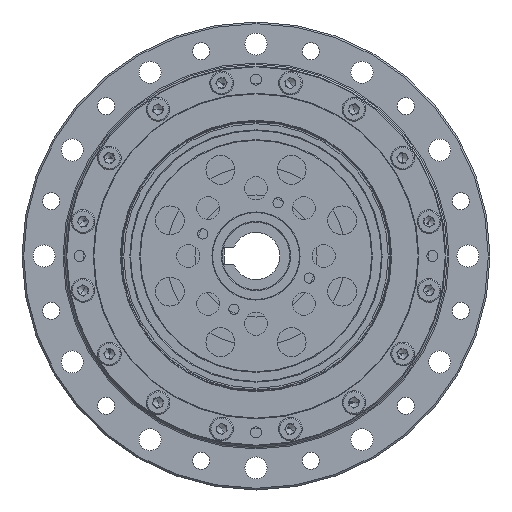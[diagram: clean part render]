
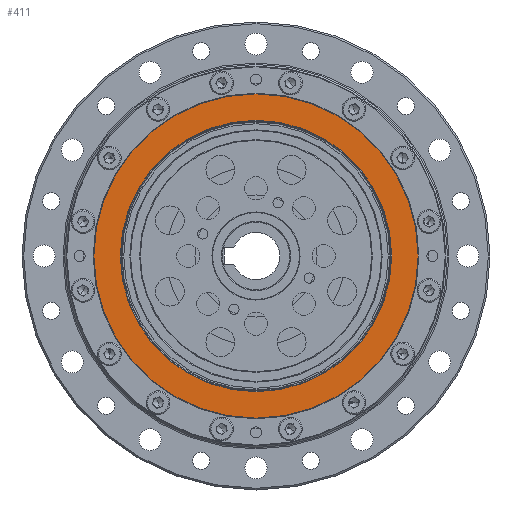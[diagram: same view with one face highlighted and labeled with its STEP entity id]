
A CAD part, left-side view. The second image highlights one B-rep face of the part: STEP entity #411.
In plain terms, the highlighted planar face has unit normal (-1, 0, 0).
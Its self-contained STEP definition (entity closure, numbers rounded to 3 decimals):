
#134 = CIRCLE ( 'NONE', #6248, 40. ) ;
#220 = CARTESIAN_POINT ( 'NONE',  ( -36.034, 3.993, 138. ) ) ;
#243 = FACE_BOUND ( 'NONE', #15381, .T. ) ;
#411 = ADVANCED_FACE ( 'NONE', ( #15183, #243 ), #17944, .T. ) ;
#1292 = ORIENTED_EDGE ( 'NONE', *, *, #10104, .F. ) ;
#1642 = DIRECTION ( 'NONE',  ( 0., 0., 1. ) ) ;
#1962 = AXIS2_PLACEMENT_3D ( 'NONE', #12232, #3798, #13634 ) ;
#3005 = DIRECTION ( 'NONE',  ( -1., 0., 0. ) ) ;
#3798 = DIRECTION ( 'NONE',  ( -1., 0., 0. ) ) ;
#4400 = VERTEX_POINT ( 'NONE', #12700 ) ;
#4790 = CARTESIAN_POINT ( 'NONE',  ( -36.034, 3.993, 98. ) ) ;
#5350 = ORIENTED_EDGE ( 'NONE', *, *, #12710, .T. ) ;
#6179 = EDGE_LOOP ( 'NONE', ( #7884, #5350 ) ) ;
#6248 = AXIS2_PLACEMENT_3D ( 'NONE', #11413, #3005, #12841 ) ;
#7168 = CIRCLE ( 'NONE', #1962, 47.8 ) ;
#7556 = CARTESIAN_POINT ( 'NONE',  ( -36.034, 3.993, 185.8 ) ) ;
#7884 = ORIENTED_EDGE ( 'NONE', *, *, #13234, .T. ) ;
#8057 = CARTESIAN_POINT ( 'NONE',  ( -36.034, 3.993, 138. ) ) ;
#9353 = AXIS2_PLACEMENT_3D ( 'NONE', #220, #10033, #1642 ) ;
#9447 = DIRECTION ( 'NONE',  ( 0., 0., 1. ) ) ;
#9710 = AXIS2_PLACEMENT_3D ( 'NONE', #17160, #18067, #18107 ) ;
#10033 = DIRECTION ( 'NONE',  ( -1., 0., 0. ) ) ;
#10104 = EDGE_CURVE ( 'NONE', #4400, #13110, #134, .T. ) ;
#10610 = VERTEX_POINT ( 'NONE', #11447 ) ;
#11413 = CARTESIAN_POINT ( 'NONE',  ( -36.034, 3.993, 138. ) ) ;
#11447 = CARTESIAN_POINT ( 'NONE',  ( -36.034, 3.993, 90.2 ) ) ;
#12232 = CARTESIAN_POINT ( 'NONE',  ( -36.034, 3.993, 138. ) ) ;
#12700 = CARTESIAN_POINT ( 'NONE',  ( -36.034, 3.993, 178. ) ) ;
#12710 = EDGE_CURVE ( 'NONE', #17113, #10610, #16824, .T. ) ;
#12841 = DIRECTION ( 'NONE',  ( 0., 0., 1. ) ) ;
#13110 = VERTEX_POINT ( 'NONE', #4790 ) ;
#13234 = EDGE_CURVE ( 'NONE', #10610, #17113, #7168, .T. ) ;
#13278 = ORIENTED_EDGE ( 'NONE', *, *, #14237, .F. ) ;
#13356 = AXIS2_PLACEMENT_3D ( 'NONE', #8057, #17798, #9447 ) ;
#13634 = DIRECTION ( 'NONE',  ( 0., 0., 1. ) ) ;
#14237 = EDGE_CURVE ( 'NONE', #13110, #4400, #15929, .T. ) ;
#15183 = FACE_OUTER_BOUND ( 'NONE', #6179, .T. ) ;
#15381 = EDGE_LOOP ( 'NONE', ( #1292, #13278 ) ) ;
#15929 = CIRCLE ( 'NONE', #9353, 40. ) ;
#16824 = CIRCLE ( 'NONE', #13356, 47.8 ) ;
#17113 = VERTEX_POINT ( 'NONE', #7556 ) ;
#17160 = CARTESIAN_POINT ( 'NONE',  ( -36.034, 3.993, 138. ) ) ;
#17798 = DIRECTION ( 'NONE',  ( -1., 0., 0. ) ) ;
#17944 = PLANE ( 'NONE',  #9710 ) ;
#18067 = DIRECTION ( 'NONE',  ( -1., 0., 0. ) ) ;
#18107 = DIRECTION ( 'NONE',  ( 0., 0., 1. ) ) ;
